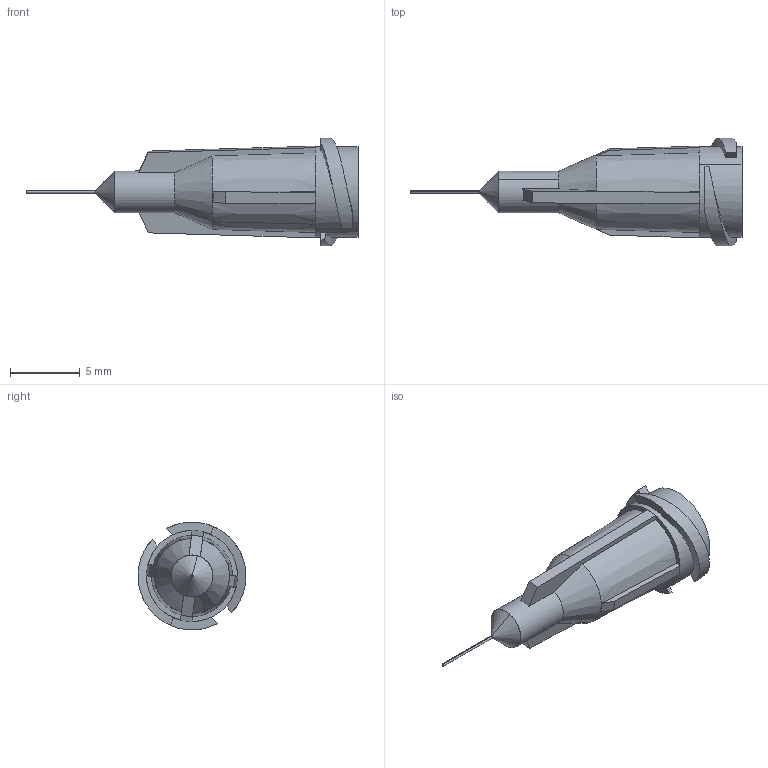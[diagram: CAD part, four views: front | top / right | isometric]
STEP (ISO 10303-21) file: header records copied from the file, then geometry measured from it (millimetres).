
FILE_DESCRIPTION (( 'STEP AP214' ), '1' );
FILE_NAME ('8001116_CUS.STEP', '2021-10-12T13:34:36', ( '' ), ( '' ), 'SwSTEP 2.0', 'SolidWorks 2020', '' );
FILE_SCHEMA (( 'AUTOMOTIVE_DESIGN' ));
Length unit declared in the file: millimetre
Products named in the file (4): 8001116_CUS; 8001116_Turquoise; Plastic Hub_Turquoise; Epoxy Bonding
Assembly tree (3 placements, depth 2):
  8001116_CUS
    8001116_Turquoise
    Plastic Hub_Turquoise
    Epoxy Bonding
Bounding box: 23.72 x 7.69 x 7.7 mm (x, y, z)
Volume: 246.4 mm3; surface area: 551.7 mm2
Topology: 3 solids, 3 shells, 81 faces, 192 edges, 120 vertices
Faces by surface type: plane 43, cone 18, cylinder 14, bspline 6
Entity records: 2732 total; most frequent: CARTESIAN_POINT 761, DIRECTION 386, ORIENTED_EDGE 384, EDGE_CURVE 192, AXIS2_PLACEMENT_3D 151, VERTEX_POINT 120, EDGE_LOOP 90, LINE 84
